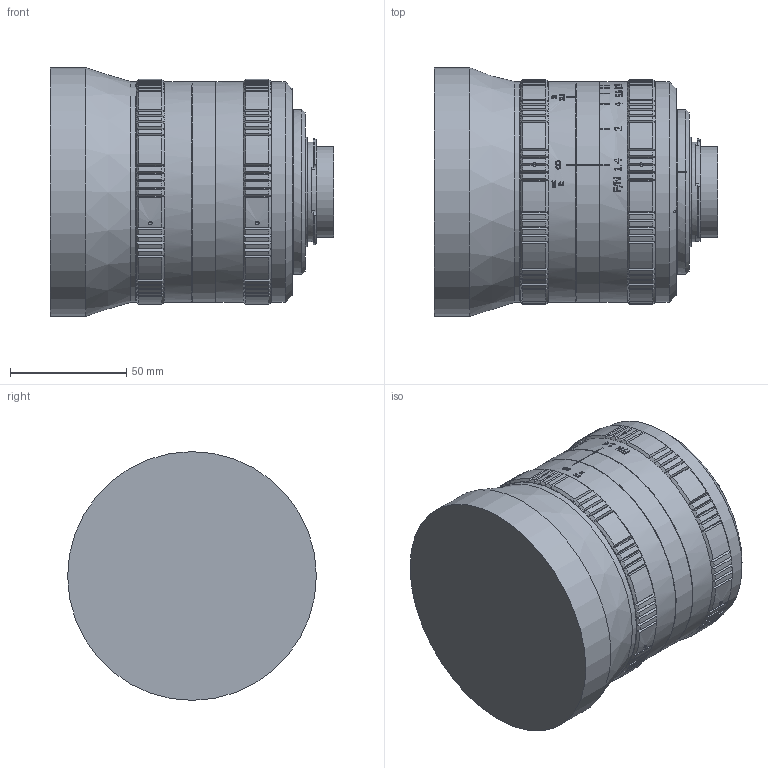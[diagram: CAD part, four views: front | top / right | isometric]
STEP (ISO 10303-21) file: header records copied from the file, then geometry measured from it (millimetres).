
FILE_DESCRIPTION((''),'2;1');
FILE_NAME('\\10.0.0.209\Doc Produ\Meccaniche\STP\A_2008\C0810\C0810_000\C0810_002.stp','2014-04-28T11:51:56',('mcilia'),(''),'Autodesk Inventor 2010','Autodesk Inventor 2010','');
FILE_SCHEMA(('AUTOMOTIVE_DESIGN { 1 0 10303 214 1 1 1 1 }'));
Length unit declared in the file: millimetre
Products named in the file (2): C0810_002_000 (Livello di dettaglio sostituto1); C0810_002
Assembly tree (1 placements, depth 2):
  C0810_002_000 (Livello di dettaglio sostituto1)
    C0810_002
Bounding box: 121.85 x 107 x 107 mm (x, y, z)
Surface area: 129137.5 mm2 (no closed solid volume)
Topology: 0 solids, 26 shells, 658 faces, 2063 edges, 1405 vertices
Faces by surface type: plane 266, cone 231, cylinder 144, bspline 17
Full cylindrical faces by diameter (mm): 39 x1, 43 x1, 47 x1, 91 x2, 95 x4, 107 x1
Entity records: 24310 total; most frequent: CARTESIAN_POINT 7241, ORIENTED_EDGE 3317, DIRECTION 3228, EDGE_CURVE 2011, VERTEX_POINT 1385, AXIS2_PLACEMENT_3D 1303, EDGE_LOOP 739, FACE_OUTER_BOUND 658
